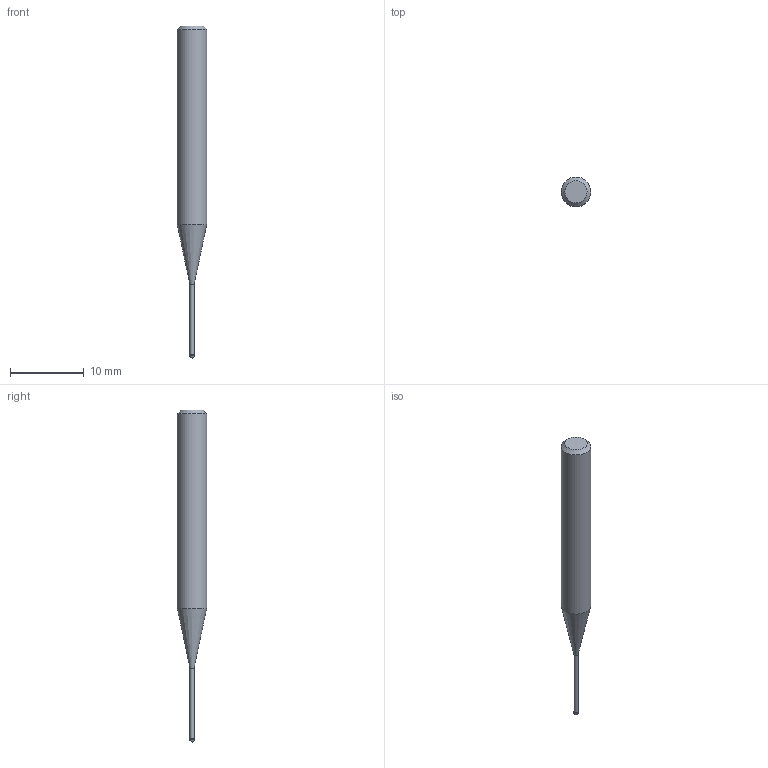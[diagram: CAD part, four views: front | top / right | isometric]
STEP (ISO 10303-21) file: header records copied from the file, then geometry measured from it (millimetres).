
FILE_DESCRIPTION((''),'2;1');
FILE_NAME('C:\Users\nsx150\AppData\Local\Temp\Mastercam 2021\3SYKECWX22\TEMP.step','2021-04-22T10:01:14',(''),(''),'STEP Write','Mastercam 2021 ... CNC Software, Inc.','');
FILE_SCHEMA(('AUTOMOTIVE_DESIGN'));
Length unit declared in the file: millimetre
Products named in the file (1): None
Bounding box: 4 x 4 x 45 mm (x, y, z)
Volume: 378.5 mm3; surface area: 424.1 mm2
Topology: 2 solids, 2 shells, 9 faces, 14 edges, 8 vertices
Faces by surface type: plane 3, cylinder 3, cone 2, sphere 1
Full cylindrical faces by diameter (mm): 0.56 x1, 0.6 x1, 4 x1
Entity records: 211 total; most frequent: DIRECTION 36, CARTESIAN_POINT 25, AXIS2_PLACEMENT_3D 18, ORIENTED_EDGE 14, EDGE_LOOP 14, STYLED_ITEM 12, ADVANCED_FACE 9, FACE_BOUND 8
